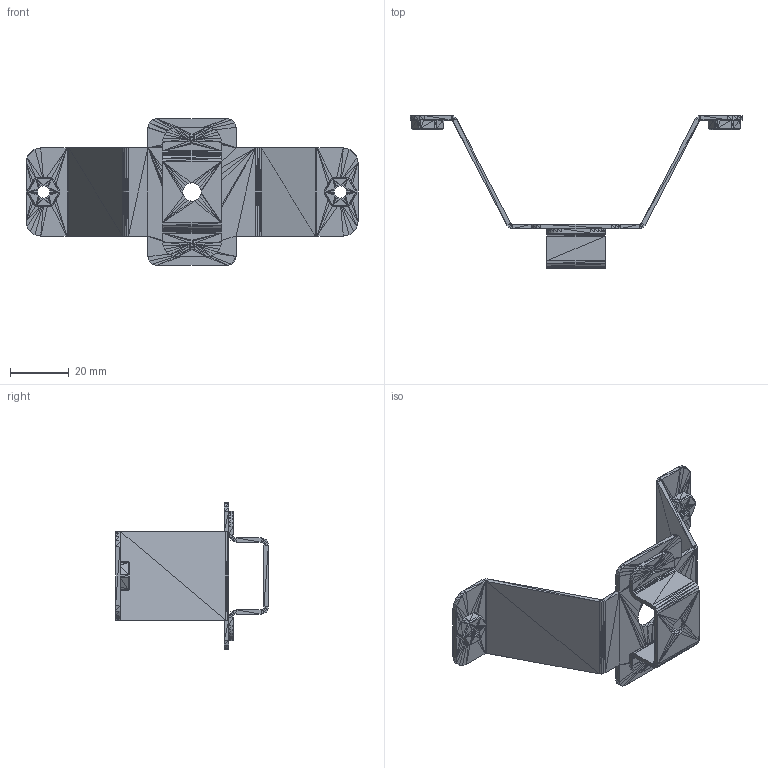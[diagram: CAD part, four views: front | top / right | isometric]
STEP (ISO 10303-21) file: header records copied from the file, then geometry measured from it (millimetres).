
FILE_DESCRIPTION((''),'2;1');
FILE_NAME('053636', '2026-08-12T10:19:00', (''), (''), 'ImageToStl.com STEP Converter','', '');
FILE_SCHEMA(('AUTOMOTIVE_DESIGN_CC2'));
Length unit declared in the file: metre
Products named in the file (1): product0
Bounding box: 113 x 52 x 50 mm (x, y, z)
Surface area: 14331.3 mm2 (no closed solid volume)
Topology: 0 solids, 1858 shells, 1858 faces, 5574 edges, 920 vertices
Faces by surface type: plane 1858
Entity records: 42744 total; most frequent: DIRECTION 9292, ORIENTED_EDGE 5574, EDGE_CURVE 5574, LINE 5574, VECTOR 5574, AXIS2_PLACEMENT_3D 1859, FACE_SURFACE 1858, PLANE 1858
